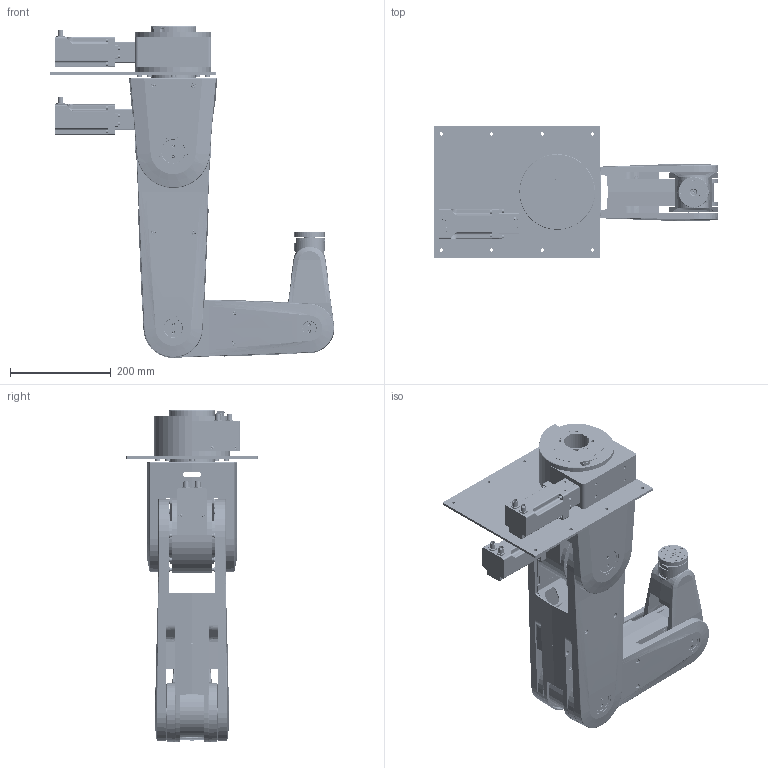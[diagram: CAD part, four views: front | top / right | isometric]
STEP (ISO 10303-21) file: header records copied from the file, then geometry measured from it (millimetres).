
FILE_DESCRIPTION(/* description */ (''),/* implementation_level */ '2;1');
FILE_NAME(/* name */ 'C:\ProgramData\PROCAD GmbH & Co. KG\NdfWork\304453_NdfWork\D00148647.step',/* time_stamp */ '2020-11-18T15:51:48+01:00',/* author */ ('jvonderlaake'),/* organization */ (''),/* preprocessor_version */ 'ST-DEVELOPER v18.1',/* originating_system */ 'Autodesk Inventor 2020',/* authorisation */ '');
FILE_SCHEMA (('AUTOMOTIVE_DESIGN { 1 0 10303 214 3 1 1 }'));
Products named in the file (109): D00148647.iam; D00147885.iam; D00147924.iam; D00147925.ipt; D00147971.ipt; D00148004.iam; D00147958.ipt; D00147892.iam; D00147894.ipt; D00147896.ipt; D00147897.ipt; D00147901.iam; D00147914.ipt; D00147915.ipt; D00147916.ipt; NOR-10574; D00147988.iam; D00147989.ipt; D00201527.ipt; D00148010.iam; D00148021.ipt; D00148533.iam; D00148534.ipt; D00148540.ipt; D00148541.iam; D00148542.ipt; D00148543.ipt; D00148544.ipt; D00109352.ipt; D00162144.ipt; D00148583.iam; D00128742.ipt; D00148584.iam; D00148586.ipt; D00148535.ipt; D00148589.ipt; D00148601.iam; D00137857.ipt; D00069180.ipt; NOR-10101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
Assembly tree (335 placements, depth 5):
  D00148647.iam
    D00147885.iam
      D00147892.iam
        D00147894.ipt
        D00147896.ipt
        D00147897.ipt
        D00147901.iam
          D00147914.ipt
          D00147915.ipt
          D00147916.ipt
        D00109352.ipt  x8
        D00162144.ipt  x8
        NOR-10574  x4
      D00147924.iam
        D00109651.ipt
        D00147925.ipt
        D00147971.ipt
        D00201527.ipt
      D00147958.ipt
    D00148004.iam
      D00147958.ipt
      D00147892.iam
        D00147894.ipt
        D00147896.ipt
        D00147897.ipt
        D00147901.iam
          D00147914.ipt
          D00147915.ipt
          D00147916.ipt
        D00109352.ipt  x8
        D00162144.ipt  x8
        NOR-10574  x4
      D00147988.iam
        D00109651.ipt
        D00147989.ipt
        D00201527.ipt
    D00148010.iam
      D00148021.ipt
      D00148533.iam
        D00148534.ipt
        D00148535.ipt
        D00148540.ipt
        D00148541.iam
          D00148542.ipt
          D00148543.ipt
          D00148544.ipt
        D00109352.ipt  x4
        D00137857.ipt  x4
        D00162144.ipt  x8
        D00069180.ipt  x4
    D00148583.iam
      D00128742.ipt
      D00148584.iam
        D00148586.ipt
        D00148535.ipt
        D00148589.ipt
        D00148601.iam
        D00069180.ipt  x8
        D00137857.ipt  x4
        NOR-10101  x4
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Bounding box: 564.36 x 260 x 657.7 mm (x, y, z)
Volume: 8010411.2 mm3; surface area: 2570139.4 mm2
Topology: 371 solids, 384 shells, 14548 faces, 40056 edges, 26840 vertices
Faces by surface type: cylinder 5678, plane 5458, cone 1615, torus 927, bspline 735, sphere 135
Full cylindrical faces by diameter (mm): 1 x39, 1.3 x2, 1.72 x2, 1.926 x1, 2 x14, 2.013 x18, 2.1 x2, 2.224 x4, 2.3 x3, 2.459 x12, 2.5 x34, 2.52 x1, 2.6 x3, 2.693 x4, 2.75 x4, 2.8 x1, 2.9 x8, 2.95 x2, 3 x87, 3.1 x2, 3.2 x8, 3.242 x65, 3.3 x28, 3.4 x8, 3.5 x47, 3.6 x2, 3.741 x4, 4 x214, 4.2 x24, 4.3 x40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
Entity records: 294936 total; most frequent: CARTESIAN_POINT 89275, DIRECTION 42245, ORIENTED_EDGE 42148, EDGE_CURVE 21074, AXIS2_PLACEMENT_3D 16693, VERTEX_POINT 14020, EDGE_LOOP 8940, LINE 8859
